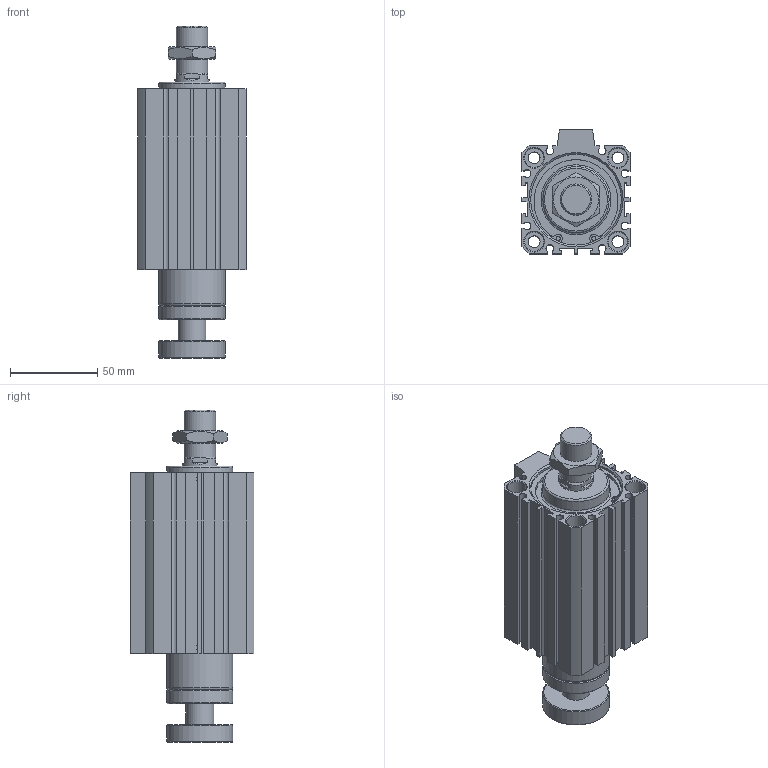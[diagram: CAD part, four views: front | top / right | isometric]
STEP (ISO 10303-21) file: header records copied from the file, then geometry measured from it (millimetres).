
FILE_DESCRIPTION((''),'2;1');
FILE_NAME('I:\3D電子目錄\氣缸\JDAR\JDAR-BS\JDAR50-BS\JDAR50x60-BS.stp','2007-05-05T14:19:19',('662F206'),(''),'Autodesk Inventor 11','Autodesk Inventor 11','');
FILE_SCHEMA(('AUTOMOTIVE_DESIGN { 1 0 10303 214 1 1 1 1 }'));
Length unit declared in the file: millimetre
Products named in the file (3): JDAR50-BS; R 形環 52
Assembly tree (3 placements, depth 2):
  JDAR50-BS
    JDAR50-BS
    R 形環 52  x2
Bounding box: 62 x 71 x 190.3 mm (x, y, z)
Volume: 414947.1 mm3; surface area: 75365 mm2
Topology: 3 solids, 3 shells, 204 faces, 493 edges, 321 vertices
Faces by surface type: plane 119, cylinder 56, cone 25, bspline 2, torus 2
Full cylindrical faces by diameter (mm): 2.3 x4, 2.7 x2, 6.8 x4, 11 x8, 16 x1, 18 x2, 20 x1, 38 x4, 52 x4, 55 x2
Entity records: 5422 total; most frequent: CARTESIAN_POINT 1023, DIRECTION 907, ORIENTED_EDGE 804, EDGE_CURVE 402, AXIS2_PLACEMENT_3D 329, VERTEX_POINT 295, EDGE_LOOP 285, VECTOR 249
